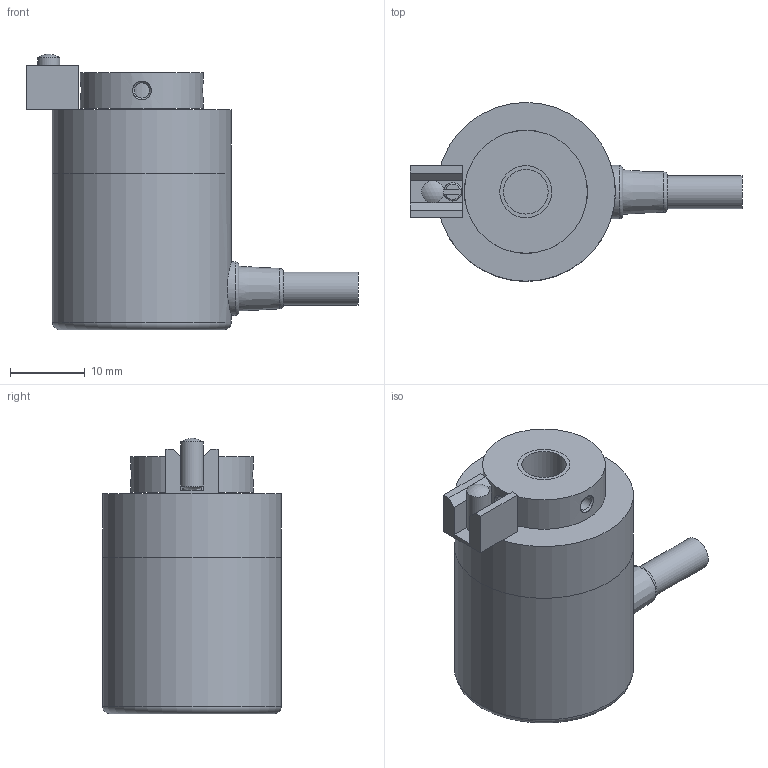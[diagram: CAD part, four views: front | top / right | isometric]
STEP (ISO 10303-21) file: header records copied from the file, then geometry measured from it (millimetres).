
FILE_DESCRIPTION (( 'STEP AP203' ), '1' );
FILE_NAME ('8.2470.12X2.XXXX.STEP', '2013-05-08T14:55:49', ( 'Hodot' ), ( '' ), 'SwSTEP 2.0', 'SolidWorks 2012', '' );
FILE_SCHEMA (( 'CONFIG_CONTROL_DESIGN' ));
Length unit declared in the file: millimetre
Products named in the file (1): 8.2470.12X2.XXXX
Bounding box: 44.55 x 24 x 36.94 mm (x, y, z)
Volume: 14738.1 mm3; surface area: 5676.2 mm2
Topology: 6 solids, 6 shells, 60 faces, 127 edges, 81 vertices
Faces by surface type: plane 29, cylinder 18, cone 6, torus 5, sphere 2
Full cylindrical faces by diameter (mm): 1.5 x1, 2.05 x4, 2.5 x4, 3 x1, 4.422 x1, 6 x1, 7 x2, 7.2 x1, 16.5 x1, 24 x2
Entity records: 1827 total; most frequent: CARTESIAN_POINT 618, DIRECTION 232, ORIENTED_EDGE 178, EDGE_LOOP 102, AXIS2_PLACEMENT_3D 99, EDGE_CURVE 89, FACE_OUTER_BOUND 81, VERTEX_POINT 73
